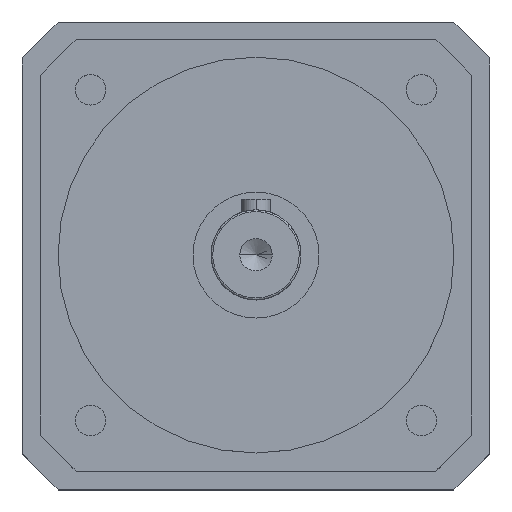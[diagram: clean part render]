
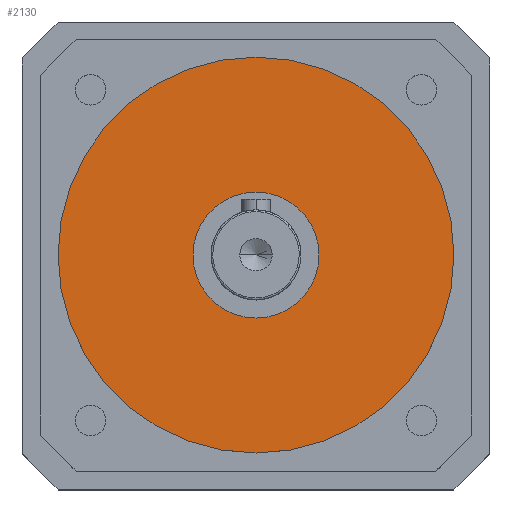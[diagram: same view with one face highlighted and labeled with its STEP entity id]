
A CAD part, top view. The second image highlights one B-rep face of the part: STEP entity #2130.
In plain terms, the highlighted planar face has unit normal (0, 0, 1).
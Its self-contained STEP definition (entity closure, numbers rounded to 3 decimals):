
#43 = ORIENTED_EDGE ( 'NONE', *, *, #63, .F. ) ;
#46 = CARTESIAN_POINT ( 'NONE',  ( 17.5, 0., 4. ) ) ;
#63 = EDGE_CURVE ( 'NONE', #1468, #500, #1568, .T. ) ;
#66 = DIRECTION ( 'NONE',  ( -1., 0., 0. ) ) ;
#169 = EDGE_LOOP ( 'NONE', ( #1392, #606 ) ) ;
#290 = EDGE_CURVE ( 'NONE', #395, #2050, #2565, .T. ) ;
#313 = CARTESIAN_POINT ( 'NONE',  ( 0., 0., 4. ) ) ;
#395 = VERTEX_POINT ( 'NONE', #46 ) ;
#440 = CARTESIAN_POINT ( 'NONE',  ( 0., 0., 4. ) ) ;
#500 = VERTEX_POINT ( 'NONE', #563 ) ;
#509 = FACE_OUTER_BOUND ( 'NONE', #744, .T. ) ;
#563 = CARTESIAN_POINT ( 'NONE',  ( 55., 0., 4. ) ) ;
#567 = CARTESIAN_POINT ( 'NONE',  ( 0., 0., 4. ) ) ;
#606 = ORIENTED_EDGE ( 'NONE', *, *, #290, .F. ) ;
#740 = DIRECTION ( 'NONE',  ( 0., 0., -1. ) ) ;
#744 = EDGE_LOOP ( 'NONE', ( #43, #2497 ) ) ;
#787 = PLANE ( 'NONE',  #994 ) ;
#930 = DIRECTION ( 'NONE',  ( 0., 0., -1. ) ) ;
#994 = AXIS2_PLACEMENT_3D ( 'NONE', #567, #1592, #1556 ) ;
#1054 = CARTESIAN_POINT ( 'NONE',  ( 0., 0., 4. ) ) ;
#1058 = DIRECTION ( 'NONE',  ( 0., 0., 1. ) ) ;
#1279 = EDGE_CURVE ( 'NONE', #2050, #395, #2343, .T. ) ;
#1350 = CARTESIAN_POINT ( 'NONE',  ( -55., 0., 4. ) ) ;
#1392 = ORIENTED_EDGE ( 'NONE', *, *, #1279, .F. ) ;
#1457 = DIRECTION ( 'NONE',  ( -1., 0., 0. ) ) ;
#1468 = VERTEX_POINT ( 'NONE', #1350 ) ;
#1556 = DIRECTION ( 'NONE',  ( -1., 0., 0. ) ) ;
#1567 = AXIS2_PLACEMENT_3D ( 'NONE', #440, #1058, #66 ) ;
#1568 = CIRCLE ( 'NONE', #2524, 55. ) ;
#1592 = DIRECTION ( 'NONE',  ( 0., 0., -1. ) ) ;
#1621 = FACE_BOUND ( 'NONE', #169, .T. ) ;
#1745 = CARTESIAN_POINT ( 'NONE',  ( -17.5, 0., 4. ) ) ;
#1753 = CARTESIAN_POINT ( 'NONE',  ( 0., 0., 4. ) ) ;
#1781 = AXIS2_PLACEMENT_3D ( 'NONE', #313, #930, #2554 ) ;
#1981 = AXIS2_PLACEMENT_3D ( 'NONE', #1054, #2509, #1457 ) ;
#2022 = EDGE_CURVE ( 'NONE', #500, #1468, #2061, .T. ) ;
#2050 = VERTEX_POINT ( 'NONE', #1745 ) ;
#2061 = CIRCLE ( 'NONE', #1781, 55. ) ;
#2130 = ADVANCED_FACE ( 'NONE', ( #1621, #509 ), #787, .F. ) ;
#2164 = DIRECTION ( 'NONE',  ( -1., 0., 0. ) ) ;
#2343 = CIRCLE ( 'NONE', #1981, 17.5 ) ;
#2497 = ORIENTED_EDGE ( 'NONE', *, *, #2022, .F. ) ;
#2509 = DIRECTION ( 'NONE',  ( 0., 0., 1. ) ) ;
#2524 = AXIS2_PLACEMENT_3D ( 'NONE', #1753, #740, #2164 ) ;
#2554 = DIRECTION ( 'NONE',  ( -1., 0., 0. ) ) ;
#2565 = CIRCLE ( 'NONE', #1567, 17.5 ) ;
